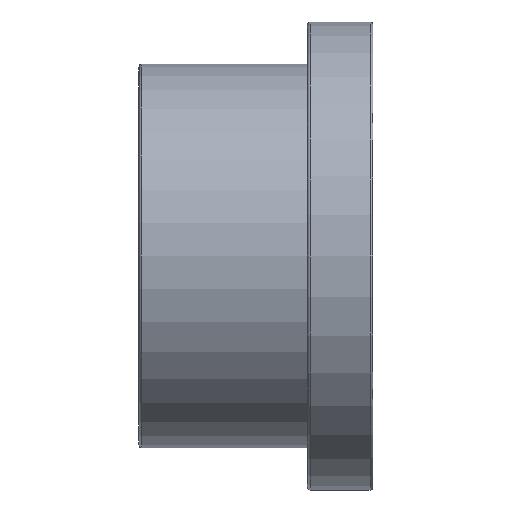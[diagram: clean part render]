
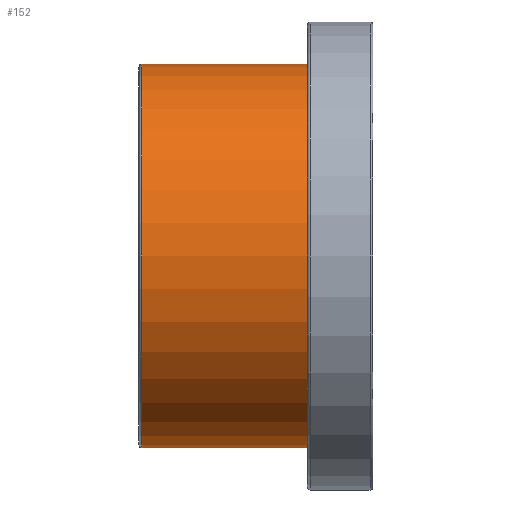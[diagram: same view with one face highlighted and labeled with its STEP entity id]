
A CAD part, front view. The second image highlights one B-rep face of the part: STEP entity #152.
In plain terms, the highlighted cylindrical face has radius 20.5 mm (diameter 41 mm), a full revolution.
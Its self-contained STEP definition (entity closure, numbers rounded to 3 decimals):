
#21=CYLINDRICAL_SURFACE('',#176,20.5);
#30=FACE_BOUND('',#64,.T.);
#43=FACE_OUTER_BOUND('',#63,.T.);
#63=EDGE_LOOP('',(#128));
#64=EDGE_LOOP('',(#129));
#78=CIRCLE('',#166,20.5);
#83=CIRCLE('',#175,20.5);
#91=VERTEX_POINT('',#250);
#96=VERTEX_POINT('',#264);
#104=EDGE_CURVE('',#91,#91,#78,.T.);
#109=EDGE_CURVE('',#96,#96,#83,.T.);
#128=ORIENTED_EDGE('',*,*,#104,.T.);
#129=ORIENTED_EDGE('',*,*,#109,.F.);
#152=ADVANCED_FACE('',(#43,#30),#21,.T.);
#166=AXIS2_PLACEMENT_3D('',#251,#200,#201);
#175=AXIS2_PLACEMENT_3D('',#265,#218,#219);
#176=AXIS2_PLACEMENT_3D('',#266,#220,#221);
#200=DIRECTION('center_axis',(-1.,0.,0.));
#201=DIRECTION('ref_axis',(0.,0.,1.));
#218=DIRECTION('center_axis',(-1.,0.,0.));
#219=DIRECTION('ref_axis',(0.,1.,0.));
#220=DIRECTION('center_axis',(-1.,0.,0.));
#221=DIRECTION('ref_axis',(0.,-1.,0.));
#250=CARTESIAN_POINT('',(18.,-20.5,0.));
#251=CARTESIAN_POINT('Origin',(18.,0.,0.));
#264=CARTESIAN_POINT('',(0.32,-20.5,0.));
#265=CARTESIAN_POINT('Origin',(0.32,0.,0.));
#266=CARTESIAN_POINT('Origin',(9.,0.,0.));
